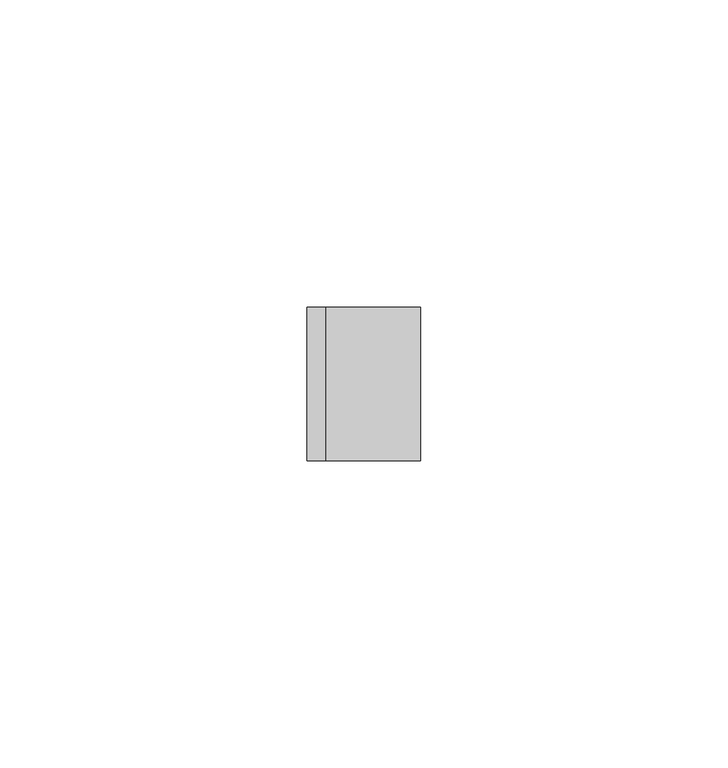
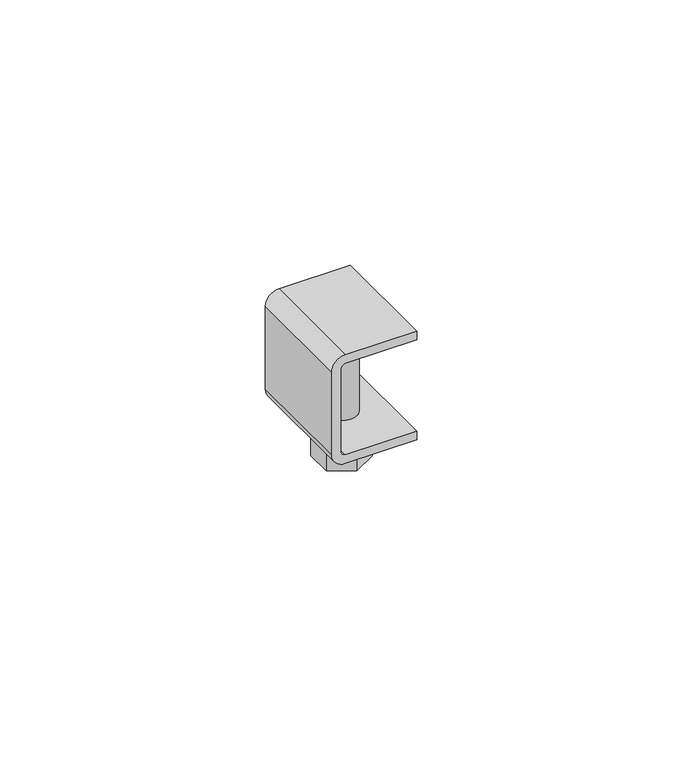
"""IFC4 building model written with IfcOpenShell, lengths in millimetres: proxy geometry, Cable_Ladder_CoverRetainer_PTI_Basortrav : Basortrav PTI."""

from ifc_helpers import new_model, si_unit, point, frame, frame_2d, origin, place, context, project, spatial, polyline, circle_curve, trimmed, segment, composite_curve, outline, extrude, source, transform, mapped, element, save
from ifc_brep_helpers import plane_surface, cylinder_surface, advanced_brep


def generic_models_1d4e2ffc(model_context):
    return source(origin(), model_context, "Body", "SolidModel", [
        extrude(outline(composite_curve([segment(trimmed(circle_curve(frame_2d((-1.0, 3.0)), 3.0), [point((2.0, 3.0))], [point((-1.0, 0.0))], False, "CARTESIAN"), True, "CONTINUOUS"), segment(polyline([(-1.0, 0.0), (-20.0, 0.0)]), True, "CONTINUOUS"), segment(trimmed(circle_curve(frame_2d((-20.0, 3.0)), 3.0), [point((-20.0, 0.0))], [point((-23.0, 3.0))], False, "CARTESIAN"), True, "CONTINUOUS"), segment(polyline([(-23.0, 3.0), (-23.0, 18.5), (-21.0, 18.5), (-21.0, 3.0)]), True, "CONTINUOUS"), segment(trimmed(circle_curve(frame_2d((-20.0, 3.0)), 1.0), [point((-21.0, 3.0))], [point((-20.0, 2.0))], True, "CARTESIAN"), True, "CONTINUOUS"), segment(polyline([(-20.0, 2.0), (-1.0, 2.0)]), True, "CONTINUOUS"), segment(trimmed(circle_curve(frame_2d((-1.0, 3.0)), 1.0), [point((-1.0, 2.0))], [point((0.0, 3.0))], True, "CARTESIAN"), True, "CONTINUOUS"), segment(polyline([(0.0, 3.0), (0.0, 18.5), (2.0, 18.5), (2.0, 3.0)]), True, "CONTINUOUS")], self_intersect=False)), frame((0.0, -25.0, 0.0), z_axis=(0.0, 1.0, 0.0), x_axis=(0.0, 0.0, 1.0)), (0.0, 0.0, 1.0), 25.0),
        advanced_brep(
        [(9.3801682, -6.7264973, -27.0), (4.3801682, -9.6132487, -27.0), (4.3801682, -15.3867513, -27.0), (9.3801682, -18.2735027, -27.0), (14.3801682, -15.3867513, -27.0), (14.3801682, -9.6132487, -27.0), (12.75, -12.5, -27.0), (6.25, -12.5, -27.0), (9.3801682, -6.7264973, -31.0), (14.3801682, -9.6132487, -31.0), (14.3801682, -15.3867513, -31.0), (9.3801682, -18.2735027, -31.0), (4.3801682, -15.3867513, -31.0), (4.3801682, -9.6132487, -31.0), (6.25, -12.5, -2.0), (12.75, -12.5, -2.0)],
        [
            (0, 1),
            (1, 2),
            (2, 3),
            (3, 4),
            (4, 5),
            (5, 0),
            (6, 7, circle_curve(frame((9.5, -12.5, -27.0), z_axis=(0.0, 0.0, -1.0), x_axis=(1.0, 0.0, 0.0)), 3.25)),
            (7, 6, circle_curve(frame((9.5, -12.5, -27.0), z_axis=(0.0, 0.0, -1.0), x_axis=(1.0, 0.0, 0.0)), 3.25)),
            (8, 9),
            (9, 10),
            (10, 11),
            (11, 12),
            (12, 13),
            (13, 8),
            (0, 8),
            (13, 1),
            (12, 2),
            (11, 3),
            (10, 4),
            (9, 5),
            (14, 15, circle_curve(frame((9.5, -12.5, -2.0), z_axis=(0.0, 0.0, 1.0), x_axis=(1.0, 0.0, 0.0)), 3.25)),
            (15, 14, circle_curve(frame((9.5, -12.5, -2.0), z_axis=(0.0, 0.0, 1.0), x_axis=(1.0, 0.0, 0.0)), 3.25)),
            (14, 7),
            (6, 15),
        ],
        [
            plane_surface(frame((9.3801682, -6.7264973, -27.0), z_axis=(0.0, 0.0, 1.0), x_axis=(-0.8660254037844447, -0.4999999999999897, 0.0))),
            plane_surface(frame((9.3801682, -6.7264973, -31.0), z_axis=(0.0, 0.0, -1.0), x_axis=(0.8660254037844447, 0.4999999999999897, 0.0))),
            plane_surface(frame((9.3801682, -6.7264973, -27.0), z_axis=(-0.4999999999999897, 0.8660254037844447, 0.0), x_axis=(0.0, 0.0, -1.0))),
            plane_surface(frame((4.3801682, -9.6132487, -27.0), z_axis=(-1.0, 0.0, 0.0), x_axis=(0.0, 0.0, -1.0))),
            plane_surface(frame((4.3801682, -15.3867513, -27.0), z_axis=(-0.500000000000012, -0.8660254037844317, 0.0), x_axis=(0.0, 0.0, -1.0))),
            plane_surface(frame((9.3801682, -18.2735027, -27.0), z_axis=(0.49999999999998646, -0.8660254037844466, 0.0), x_axis=(0.0, 0.0, -1.0))),
            plane_surface(frame((14.3801682, -15.3867513, -27.0), z_axis=(1.0, 0.0, 0.0), x_axis=(0.0, 0.0, -1.0))),
            plane_surface(frame((14.3801682, -9.6132487, -27.0), z_axis=(0.5000000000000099, 0.866025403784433, 0.0), x_axis=(0.0, 0.0, -1.0))),
            plane_surface(frame((12.75, -12.5, -2.0), z_axis=(0.0, 0.0, 1.0), x_axis=(0.0, 1.0, 0.0))),
            cylinder_surface(frame((9.5, -12.5, -27.0), z_axis=(0.0, 0.0, 1.0), x_axis=(1.0, 0.0, 0.0)), 3.25),
        ],
        [
            (0, [[1, 2, 3, 4, 5, 6], [7, 8]]),
            (1, [[9, 10, 11, 12, 13, 14]]),
            (2, [[-1, 15, -14, 16]]),
            (3, [[-2, -16, -13, 17]]),
            (4, [[-3, -17, -12, 18]]),
            (5, [[-4, -18, -11, 19]]),
            (6, [[-5, -19, -10, 20]]),
            (7, [[-6, -20, -9, -15]]),
            (8, [[21, 22]]),
            (9, [[-21, 23, -7, 24]]),
            (9, [[-22, -24, -8, -23]]),
        ],
    ),
    ])


if __name__ == "__main__":
    model = new_model("IFC4")
    model_context = context("Model", 3, world=origin())
    ifc_project = project(units=[si_unit("LENGTHUNIT", "METRE", prefix="MILLI")], contexts=[model_context])
    site = spatial("IfcSite", under=ifc_project)
    building = spatial("IfcBuilding", under=site)
    placement = place(None, origin())
    generic_models_shape = generic_models_1d4e2ffc(model_context)
    element("IfcBuildingElementProxy", 1, Name="Cable_Ladder_CoverRetainer_PTI_Basortrav : Basortrav PTI", ObjectType="Cable_Ladder_CoverRetainer_PTI_Basortrav : Basortrav PTI", at=placement, inside=building, context=model_context, shape_type="MappedRepresentation", body=[
        mapped(generic_models_shape, transform((0.0, 0.0, 0.0), x_axis=(1.0, 0.0, 0.0), y_axis=(0.0, 1.0, 0.0), z_axis=(0.0, 0.0, 1.0))),
    ])
    save(model, "model.ifc")
